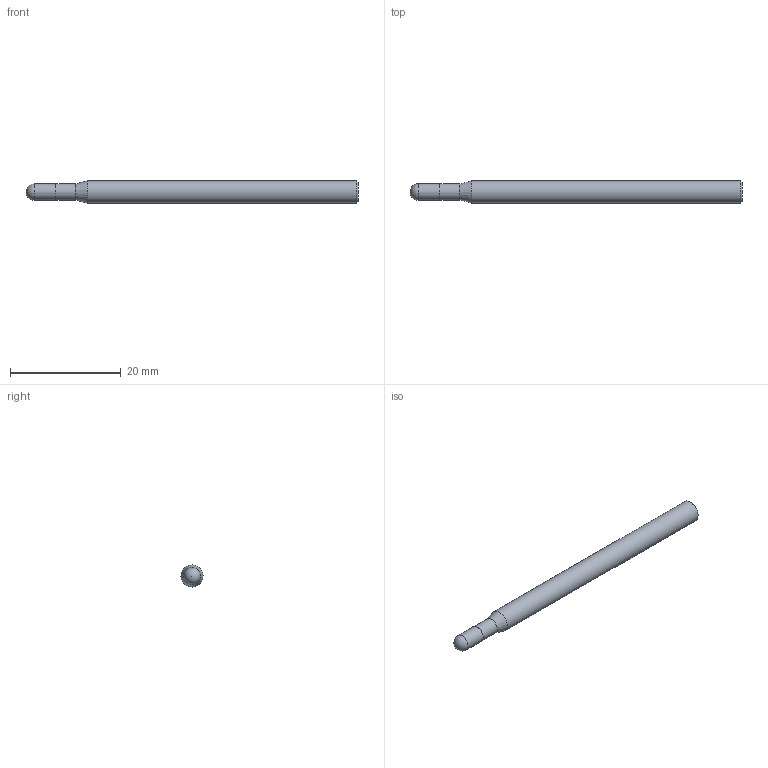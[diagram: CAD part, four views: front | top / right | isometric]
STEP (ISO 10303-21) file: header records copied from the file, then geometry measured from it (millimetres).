
FILE_DESCRIPTION(/* description */ (''),/* implementation_level */ '2;1');
FILE_NAME(/* name */ 'HSXBC4030 0460.stp',/* time_stamp */ '2026-01-27T10:27:13+08:00',/* author */ (''),/* organization */ (''),/* preprocessor_version */ 'ST-DEVELOPER v16',/* originating_system */ 'SIEMENS PLM Software NX 10.0',/* authorisation */ '');
FILE_SCHEMA (('CONFIG_CONTROL_DESIGN'));
Length unit declared in the file: millimetre
Products named in the file (1): HSXBC4030 0460_dxf
Bounding box: 60 x 4 x 4 mm (x, y, z)
Volume: 692.6 mm3; surface area: 733.3 mm2
Topology: 1 solids, 1 shells, 8 faces, 15 edges, 9 vertices
Faces by surface type: cylinder 3, plane 2, cone 2, sphere 1
Full cylindrical faces by diameter (mm): 2.9 x1, 3 x1, 4 x1
Entity records: 238 total; most frequent: DIRECTION 32, CARTESIAN_POINT 23, AXIS2_PLACEMENT_3D 16, EDGE_LOOP 14, ORIENTED_EDGE 14, FACE_BOUND 12, ADVANCED_FACE 8, PERSON_AND_ORGANIZATION 7
